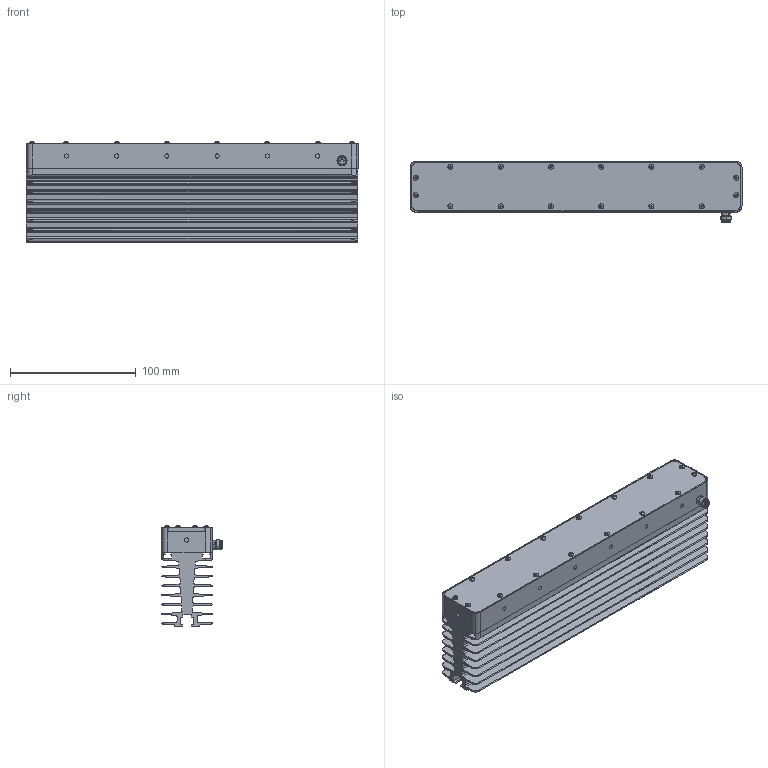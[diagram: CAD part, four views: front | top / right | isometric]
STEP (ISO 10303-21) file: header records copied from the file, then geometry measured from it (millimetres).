
FILE_DESCRIPTION(('STEP AP214'),'1');
FILE_NAME('Power-Line-240 - Kundenmodell.stp','2019-10-28T12:53:36',(' '),(' '),'Spatial InterOp 3D',' ',' ');
FILE_SCHEMA(('AUTOMOTIVE_DESIGN { 1 0 10303 214 1 1 1 1 }'));
Length unit declared in the file: millimetre
Products named in the file (1): Volumenkörper
Bounding box: 264.24 x 49.1 x 80.4 mm (x, y, z)
Volume: 435887.2 mm3; surface area: 209864 mm2
Topology: 1 solids, 21 shells, 1537 faces, 4329 edges, 2822 vertices
Faces by surface type: cylinder 557, plane 493, cone 272, torus 172, sphere 36, bspline 7
Entity records: 65329 total; most frequent: CARTESIAN_POINT 13531, ORIENTED_EDGE 8566, DIRECTION 8332, EDGE_CURVE 4283, AXIS2_PLACEMENT_3D 3482, VERTEX_POINT 2822, CIRCLE 1885, EDGE_LOOP 1615
